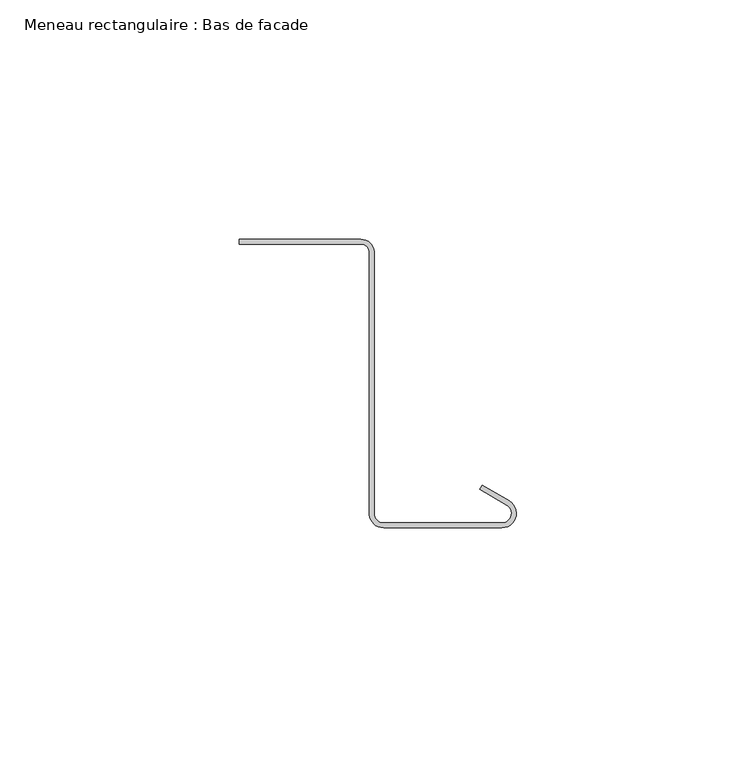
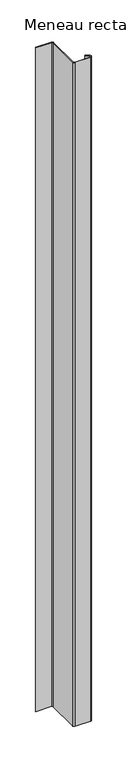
"""IFC4 building model written with IfcOpenShell, lengths in millimetres: member geometry, Meneau rectangulaire : Bas de facade."""

import ifcopenshell
import ifcopenshell.guid

model = None  # the IFC model being written
_history = None  # IfcOwnerHistory: only IFC2X3 demands one
_inside = {}  # id of a spatial element -> (the spatial element, [elements in it])
_under = {}  # id of a project, library or spatial element -> (it, [spatial elements below it])
_declared = {}  # id of a project -> (the project, [libraries it declares])
_typed = {}  # id of a type object -> (the type object, [elements of that type])
_made_of = {}  # id of a material, layer set ... -> (it, [elements and type objects made of it])


def new_model(schema):
    """Start an empty IFC model of exactly this schema.

    Asked for "IFC4X3", IfcOpenShell would pick the latest addendum, in which some entities
    have other attributes; the version numbers below select the first issue.
    IFC2X3 requires an IfcOwnerHistory on every rooted entity: one is made here for all.
    """
    global model, _history
    if schema == "IFC4X3":
        model = ifcopenshell.file(schema_version=(4, 3, 0, 0))
    else:
        model = ifcopenshell.file(schema=schema)
    _inside.clear()
    _under.clear()
    _declared.clear()
    _typed.clear()
    _made_of.clear()
    _history = None
    if model.schema == "IFC2X3":
        org = make("IfcOrganization", Name="unknown")
        user = make(
            "IfcPersonAndOrganization",
            ThePerson=make("IfcPerson", FamilyName="unknown"),
            TheOrganization=org,
        )
        app = make(
            "IfcApplication",
            ApplicationDeveloper=org,
            Version="unknown",
            ApplicationFullName="unknown",
            ApplicationIdentifier="unknown",
        )
        _history = make(
            "IfcOwnerHistory",
            OwningUser=user,
            OwningApplication=app,
            ChangeAction="ADDED",
            CreationDate=0,
        )
    return model


def make(cls, **values):
    """One entity of the class cls with the attributes given. An attribute that is None is left unset."""
    return model.create_entity(
        cls, **{name: value for name, value in values.items() if value is not None}
    )


def rooted(cls, **values):
    """An entity with a GlobalId (a new one), such as an element, a storey or a relation."""
    return make(cls, GlobalId=ifcopenshell.guid.new(), OwnerHistory=_history, **values)


def si_unit(unit_type, name, prefix=None):
    """IfcSIUnit, for example si_unit("LENGTHUNIT", "METRE", prefix="MILLI")."""
    return make("IfcSIUnit", UnitType=unit_type, Prefix=prefix, Name=name)


def assignment(units):
    """IfcUnitAssignment: the units of a project."""
    return None if units is None else make("IfcUnitAssignment", Units=units)


def point(xyz):
    """IfcCartesianPoint."""
    return None if xyz is None else make("IfcCartesianPoint", Coordinates=xyz)


def direction(xyz):
    """IfcDirection."""
    return None if xyz is None else make("IfcDirection", DirectionRatios=xyz)


def frame(location, z_axis=None, x_axis=None):
    """IfcAxis2Placement3D, a coordinate frame: its origin and axes. An axis left out is left unset."""
    return make(
        "IfcAxis2Placement3D",
        Location=point(location),
        Axis=direction(z_axis),
        RefDirection=direction(x_axis),
    )


def frame_2d(location, x_axis=None):
    """IfcAxis2Placement2D, a coordinate frame in the plane: its origin and x axis."""
    return make(
        "IfcAxis2Placement2D", Location=point(location), RefDirection=direction(x_axis)
    )


def origin():
    """The frame at (0, 0, 0) with its axes left unset."""
    return frame((0.0, 0.0, 0.0))


def place(relative_to, where):
    """IfcLocalPlacement: puts the frame where relative to a parent placement (None: the world)."""
    return make(
        "IfcLocalPlacement", PlacementRelTo=relative_to, RelativePlacement=where
    )


def context(
    kind, dimensions, precision=None, world=None, true_north=None, identifier=None
):
    """IfcGeometricRepresentationContext, for example the 3D "Model" context."""
    return make(
        "IfcGeometricRepresentationContext",
        ContextIdentifier=identifier,
        ContextType=kind,
        CoordinateSpaceDimension=dimensions,
        Precision=precision,
        WorldCoordinateSystem=world,
        TrueNorth=true_north,
    )


def project(units=None, contexts=None):
    """IfcProject with its units and contexts."""
    return rooted(
        "IfcProject",
        Name="project",
        RepresentationContexts=contexts,
        UnitsInContext=assignment(units),
    )


def spatial(cls, under=None, at=None, **own):
    """A site, building, storey or space (cls), placed at a placement, below another one or the project."""
    s = rooted(cls, ObjectPlacement=at, **own)
    if under is not None:
        _under.setdefault(under.id(), (under, []))[1].append(s)
    return s


def polyline(points):
    """IfcPolyline through the points."""
    return make("IfcPolyline", Points=[point(p) for p in points])


def circle_curve(where, radius):
    """IfcCircle in the frame where."""
    return make("IfcCircle", Position=where, Radius=radius)


def trimmed(basis, trim1, trim2, sense, master):
    """IfcTrimmedCurve: the piece of a basis curve between two trims."""
    return make(
        "IfcTrimmedCurve",
        BasisCurve=basis,
        Trim1=trim1,
        Trim2=trim2,
        SenseAgreement=sense,
        MasterRepresentation=master,
    )


def segment(curve, same_sense, transition):
    """IfcCompositeCurveSegment."""
    return make(
        "IfcCompositeCurveSegment",
        Transition=transition,
        SameSense=same_sense,
        ParentCurve=curve,
    )


def composite_curve(segments, self_intersect=None):
    """IfcCompositeCurve: segments joined end to end."""
    return make("IfcCompositeCurve", Segments=segments, SelfIntersect=self_intersect)


def outline(outer, holes=None, kind="AREA"):
    """IfcArbitraryClosedProfileDef: a profile drawn as a closed curve; with holes, ...WithVoids."""
    if holes is None:
        return make("IfcArbitraryClosedProfileDef", ProfileType=kind, OuterCurve=outer)
    return make(
        "IfcArbitraryProfileDefWithVoids",
        ProfileType=kind,
        OuterCurve=outer,
        InnerCurves=holes,
    )


def extrude(swept, where, along, depth):
    """IfcExtrudedAreaSolid: the profile swept, set in the frame where, extruded along a direction by depth."""
    return make(
        "IfcExtrudedAreaSolid",
        SweptArea=swept,
        Position=where,
        ExtrudedDirection=direction(along),
        Depth=depth,
    )


def shape(context_of_items, identifier, shape_type, items):
    """IfcShapeRepresentation: the items that make up one representation, for example the "Body"."""
    return make(
        "IfcShapeRepresentation",
        ContextOfItems=context_of_items,
        RepresentationIdentifier=identifier,
        RepresentationType=shape_type,
        Items=items,
    )


def source(mapping_origin, context_of_items, identifier, shape_type, items):
    """IfcRepresentationMap: a shape defined once, which mapped items show again and again."""
    return make(
        "IfcRepresentationMap",
        MappingOrigin=mapping_origin,
        MappedRepresentation=shape(context_of_items, identifier, shape_type, items),
    )


def transform(
    local_origin,
    x_axis=None,
    y_axis=None,
    z_axis=None,
    scale=None,
    scale2=None,
    scale3=None,
    uniform=True,
):
    """IfcCartesianTransformationOperator3D, or its non-uniform kind. x_axis, y_axis, z_axis: its Axis1, 2, 3."""
    if uniform:
        return make(
            "IfcCartesianTransformationOperator3D",
            Axis1=direction(x_axis),
            Axis2=direction(y_axis),
            LocalOrigin=point(local_origin),
            Scale=scale,
            Axis3=direction(z_axis),
        )
    return make(
        "IfcCartesianTransformationOperator3DnonUniform",
        Axis1=direction(x_axis),
        Axis2=direction(y_axis),
        LocalOrigin=point(local_origin),
        Scale=scale,
        Axis3=direction(z_axis),
        Scale2=scale2,
        Scale3=scale3,
    )


def mapped(mapping_source, mapping_target):
    """IfcMappedItem: shows the shape of a source again, moved by a transform."""
    return make(
        "IfcMappedItem", MappingSource=mapping_source, MappingTarget=mapping_target
    )


def made_of(thing, what):
    """Note that an element or type object is made of a material, layer set ...; save() writes the relation."""
    if what is not None:
        _made_of.setdefault(what.id(), (what, []))[1].append(thing)
    return thing


def element(
    cls,
    number,
    at=None,
    inside=None,
    cuts=None,
    type_object=None,
    material=None,
    context=None,
    identifier="Body",
    shape_type=None,
    held_by="IfcProductDefinitionShape",
    body=None,
    shapes=None,
    **own,
):
    """One element of the class cls, such as IfcWall. Its Tag is "e" and its number.

    at: its placement. inside: the storey or other place that contains it. cuts: it is an
    opening in that element (IfcRelVoidsElement). A single representation is given by context,
    identifier, shape_type and body (its items); several are given by shapes. held_by: the class
    of the entity that holds the representations. save() writes the other relations.
    """
    e = rooted(cls, Tag="e%d" % number, ObjectPlacement=at, **own)
    if body is not None:
        shapes = [shape(context, identifier, shape_type, body)]
    if shapes is not None:
        e.Representation = make(held_by, Representations=shapes)
    if inside is not None:
        _inside.setdefault(inside.id(), (inside, []))[1].append(e)
    if cuts is not None:
        rooted(
            "IfcRelVoidsElement", RelatingBuildingElement=cuts, RelatedOpeningElement=e
        )
    if type_object is not None:
        _typed.setdefault(type_object.id(), (type_object, []))[1].append(e)
    return made_of(e, material)


def aggregate(whole, parts):
    """IfcRelAggregates: a whole, such as a stair, and the parts it consists of."""
    return rooted("IfcRelAggregates", RelatingObject=whole, RelatedObjects=parts)


def save(model, path):
    """Write the relations noted so far, then the file.

    IfcRelAggregates (storeys below a building ...), IfcRelContainedInSpatialStructure (elements
    in a storey), IfcRelDefinesByType, IfcRelAssociatesMaterial and IfcRelDeclares: one each for
    every whole, place, type object, material and project.
    """
    for whole, parts in _under.values():
        aggregate(whole, parts)
    for where, things in _inside.values():
        rooted(
            "IfcRelContainedInSpatialStructure",
            RelatedElements=things,
            RelatingStructure=where,
        )
    for kind, things in _typed.values():
        rooted("IfcRelDefinesByType", RelatedObjects=things, RelatingType=kind)
    for what, things in _made_of.values():
        rooted("IfcRelAssociatesMaterial", RelatedObjects=things, RelatingMaterial=what)
    for by, libraries in _declared.values():
        rooted("IfcRelDeclares", RelatingContext=by, RelatedDefinitions=libraries)
    model.write(path)


def meneau_rectangulaire_bas_de_facade_44356cba(model_context):
    return source(origin(), model_context, "Body", "SweptSolid", [
        extrude(outline(composite_curve([segment(trimmed(circle_curve(frame_2d((-32.4584179, 0.2088923)), 2.75), [point((-32.4584179, 2.9588923))], [point((-29.7143802, 0.3898824))], False, "CARTESIAN"), True, "CONTINUOUS"), segment(polyline([(-29.7143802, 0.3898824), (-29.7143802, -54.5495817)]), True, "CONTINUOUS"), segment(trimmed(circle_curve(frame_2d((-27.735368, -54.2605998)), 2.0), [point((-29.7143802, -54.5495817))], [point((-27.735368, -56.2605998))], True, "CARTESIAN"), True, "CONTINUOUS"), segment(polyline([(-27.735368, -56.2605998), (-3.0, -56.2605998)]), True, "CONTINUOUS"), segment(trimmed(circle_curve(frame_2d((-3.0, -54.2605998)), 2.0), [point((-3.0, -56.2605998))], [point((-2.0, -52.528549))], True, "CARTESIAN"), True, "CONTINUOUS"), segment(polyline([(-2.0, -52.528549), (-7.6638061, -49.258549), (-7.1638061, -48.3925235), (-1.5, -51.6625235)]), True, "CONTINUOUS"), segment(trimmed(circle_curve(frame_2d((-3.0, -54.2605998)), 3.0), [point((-1.5, -51.6625235))], [point((-3.0, -57.2605998))], False, "CARTESIAN"), True, "CONTINUOUS"), segment(polyline([(-3.0, -57.2605998), (-27.735368, -57.2605998)]), True, "CONTINUOUS"), segment(trimmed(circle_curve(frame_2d((-27.735368, -54.2605998)), 3.0), [point((-27.735368, -57.2605998))], [point((-30.7239521, -54.522067))], False, "CARTESIAN"), True, "CONTINUOUS"), segment(polyline([(-30.7239521, -54.522067), (-30.7239521, 0.4415475)]), True, "CONTINUOUS"), segment(trimmed(circle_curve(frame_2d((-32.4584179, 0.2088923)), 1.75), [point((-30.7239521, 0.4415475))], [point((-32.4584179, 1.9588923))], True, "CARTESIAN"), True, "CONTINUOUS"), segment(polyline([(-32.4584179, 1.9588923), (-57.8548383, 1.9588923), (-57.8548383, 2.9588923), (-32.4584179, 2.9588923)]), True, "CONTINUOUS")], self_intersect=False)), frame((0.0, 0.0, -1140.0), z_axis=(0.0, 0.0, 1.0), x_axis=(1.0, 0.0, 0.0)), (0.0, 0.0, 1.0), 1140.0),
    ])


if __name__ == "__main__":
    model = new_model("IFC4")
    model_context = context("Model", 3, world=origin())
    ifc_project = project(units=[si_unit("LENGTHUNIT", "METRE", prefix="MILLI")], contexts=[model_context])
    site = spatial("IfcSite", under=ifc_project)
    building = spatial("IfcBuilding", under=site)
    placement = place(None, origin())
    meneau_rectangulaire_bas_de_facade_shape = meneau_rectangulaire_bas_de_facade_44356cba(model_context)
    element("IfcMember", 1, ObjectType="Meneau rectangulaire : Bas de facade", at=placement, inside=building, context=model_context, shape_type="MappedRepresentation", body=[
        mapped(meneau_rectangulaire_bas_de_facade_shape, transform((0.0, 0.0, 0.0), x_axis=(1.0, 0.0, 0.0), y_axis=(0.0, 1.0, 0.0), z_axis=(0.0, 0.0, 1.0))),
    ])
    save(model, "model.ifc")
